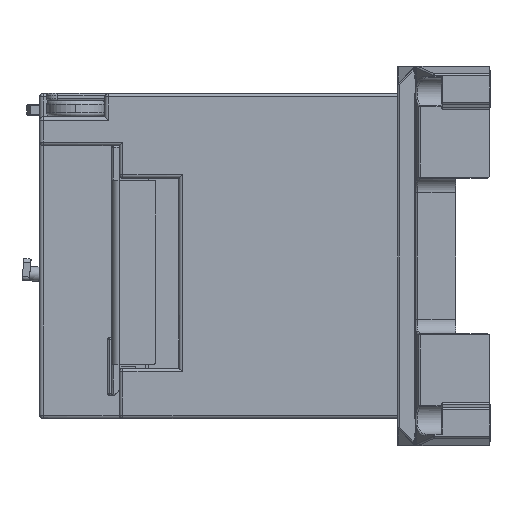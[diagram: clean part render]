
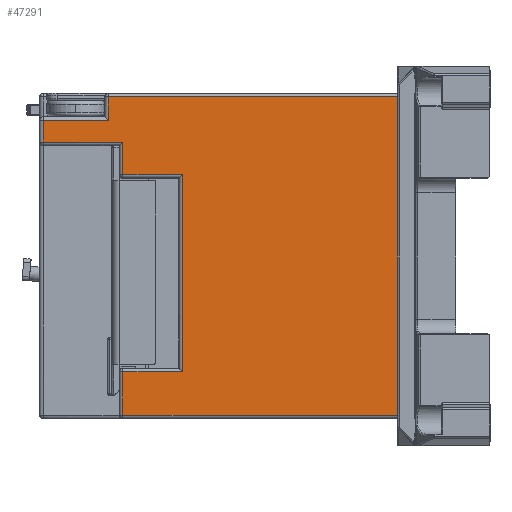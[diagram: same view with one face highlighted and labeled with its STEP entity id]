
A CAD part, left-side view. The second image highlights one B-rep face of the part: STEP entity #47291.
In plain terms, the highlighted planar face has unit normal (-1, 0, 0) as drawn and (1, 0, 0) by its records, which use the part's own axes.
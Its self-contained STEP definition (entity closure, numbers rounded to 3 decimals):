
#357 = DIRECTION ( 'NONE',  ( 0., -1., 0. ) ) ;
#2171 = LINE ( 'NONE', #3861, #11536 ) ;
#2216 = EDGE_CURVE ( 'NONE', #45053, #4192, #16028, .T. ) ;
#2990 = DIRECTION ( 'NONE',  ( 0., 0., 1. ) ) ;
#3195 = VERTEX_POINT ( 'NONE', #27780 ) ;
#3256 = CARTESIAN_POINT ( 'NONE',  ( 43.5, 76., 44. ) ) ;
#3775 = CARTESIAN_POINT ( 'NONE',  ( 43.5, 76., -45. ) ) ;
#3861 = CARTESIAN_POINT ( 'NONE',  ( 43.5, 80., -38.5 ) ) ;
#3981 = CARTESIAN_POINT ( 'NONE',  ( 43.5, 80., -37.5 ) ) ;
#4192 = VERTEX_POINT ( 'NONE', #34594 ) ;
#4487 = EDGE_CURVE ( 'NONE', #13339, #27058, #28177, .T. ) ;
#4983 = EDGE_CURVE ( 'NONE', #50919, #45053, #44220, .T. ) ;
#5740 = CARTESIAN_POINT ( 'NONE',  ( 43.5, 59.5, 32. ) ) ;
#6043 = ORIENTED_EDGE ( 'NONE', *, *, #44804, .T. ) ;
#6538 = DIRECTION ( 'NONE',  ( 0., 0., 1. ) ) ;
#6766 = EDGE_CURVE ( 'NONE', #44911, #13339, #19767, .T. ) ;
#7398 = VECTOR ( 'NONE', #50800, 1000. ) ;
#7497 = DIRECTION ( 'NONE',  ( 0., 0., 1. ) ) ;
#7766 = VECTOR ( 'NONE', #7497, 1000. ) ;
#8300 = VECTOR ( 'NONE', #11695, 1000. ) ;
#8802 = EDGE_CURVE ( 'NONE', #14170, #32220, #37921, .T. ) ;
#9389 = ORIENTED_EDGE ( 'NONE', *, *, #4983, .T. ) ;
#9881 = VECTOR ( 'NONE', #6538, 1000. ) ;
#9907 = CARTESIAN_POINT ( 'NONE',  ( 43.5, 99., -37.5 ) ) ;
#10651 = LINE ( 'NONE', #17223, #32447 ) ;
#11439 = VECTOR ( 'NONE', #46297, 1000. ) ;
#11536 = VECTOR ( 'NONE', #2990, 1000. ) ;
#11695 = DIRECTION ( 'NONE',  ( 0., 1., 0. ) ) ;
#12392 = CARTESIAN_POINT ( 'NONE',  ( 43.5, 99., -22.5 ) ) ;
#13339 = VERTEX_POINT ( 'NONE', #27404 ) ;
#13779 = EDGE_CURVE ( 'NONE', #32220, #30173, #45362, .T. ) ;
#14170 = VERTEX_POINT ( 'NONE', #50083 ) ;
#14267 = ORIENTED_EDGE ( 'NONE', *, *, #46277, .T. ) ;
#14824 = EDGE_LOOP ( 'NONE', ( #33282, #36781, #50952, #9389, #24461, #45645, #40132, #6043, #31909, #15272, #31113, #14267 ) ) ;
#15243 = VECTOR ( 'NONE', #37503, 1000. ) ;
#15272 = ORIENTED_EDGE ( 'NONE', *, *, #4487, .T. ) ;
#15313 = EDGE_CURVE ( 'NONE', #27058, #46231, #10651, .T. ) ;
#15658 = DIRECTION ( 'NONE',  ( 0., -1., 0. ) ) ;
#16028 = LINE ( 'NONE', #44951, #39014 ) ;
#17223 = CARTESIAN_POINT ( 'NONE',  ( 43.5, 99., -31.5 ) ) ;
#17272 = PLANE ( 'NONE',  #36631 ) ;
#17388 = EDGE_CURVE ( 'NONE', #3195, #35253, #26485, .T. ) ;
#18834 = CARTESIAN_POINT ( 'NONE',  ( 43.5, 98., -31.5 ) ) ;
#19767 = LINE ( 'NONE', #9907, #35971 ) ;
#21097 = CARTESIAN_POINT ( 'NONE',  ( 43.5, 80., -44. ) ) ;
#23042 = FACE_OUTER_BOUND ( 'NONE', #14824, .T. ) ;
#24461 = ORIENTED_EDGE ( 'NONE', *, *, #2216, .T. ) ;
#24795 = CARTESIAN_POINT ( 'NONE',  ( 43.5, 76., -45. ) ) ;
#25762 = CARTESIAN_POINT ( 'NONE',  ( 43.5, 98., -30.5 ) ) ;
#25919 = EDGE_CURVE ( 'NONE', #30173, #50919, #40533, .T. ) ;
#26362 = DIRECTION ( 'NONE',  ( -1., 0., 0. ) ) ;
#26485 = LINE ( 'NONE', #43864, #11439 ) ;
#27058 = VERTEX_POINT ( 'NONE', #18834 ) ;
#27196 = VECTOR ( 'NONE', #15658, 1000. ) ;
#27404 = CARTESIAN_POINT ( 'NONE',  ( 43.5, 98., -37.5 ) ) ;
#27780 = CARTESIAN_POINT ( 'NONE',  ( 43.5, 0., -44. ) ) ;
#28177 = LINE ( 'NONE', #25762, #38318 ) ;
#28796 = CARTESIAN_POINT ( 'NONE',  ( 43.5, 76., 32. ) ) ;
#30173 = VERTEX_POINT ( 'NONE', #5740 ) ;
#31113 = ORIENTED_EDGE ( 'NONE', *, *, #15313, .T. ) ;
#31909 = ORIENTED_EDGE ( 'NONE', *, *, #6766, .T. ) ;
#32103 = CARTESIAN_POINT ( 'NONE',  ( 43.5, 59.5, -45. ) ) ;
#32220 = VERTEX_POINT ( 'NONE', #42696 ) ;
#32447 = VECTOR ( 'NONE', #49453, 1000. ) ;
#33114 = CARTESIAN_POINT ( 'NONE',  ( 43.5, 99., 32. ) ) ;
#33282 = ORIENTED_EDGE ( 'NONE', *, *, #8802, .T. ) ;
#34594 = CARTESIAN_POINT ( 'NONE',  ( 43.5, 0., 44. ) ) ;
#35027 = CARTESIAN_POINT ( 'NONE',  ( 43.5, 0., -45. ) ) ;
#35253 = VERTEX_POINT ( 'NONE', #21097 ) ;
#35971 = VECTOR ( 'NONE', #50347, 1000. ) ;
#36631 = AXIS2_PLACEMENT_3D ( 'NONE', #44537, #26362, #37033 ) ;
#36781 = ORIENTED_EDGE ( 'NONE', *, *, #13779, .T. ) ;
#37033 = DIRECTION ( 'NONE',  ( 0., 0., 1. ) ) ;
#37503 = DIRECTION ( 'NONE',  ( 0., 0., -1. ) ) ;
#37887 = EDGE_CURVE ( 'NONE', #4192, #3195, #44189, .T. ) ;
#37921 = LINE ( 'NONE', #12392, #27196 ) ;
#38318 = VECTOR ( 'NONE', #49665, 1000. ) ;
#39014 = VECTOR ( 'NONE', #357, 1000. ) ;
#40132 = ORIENTED_EDGE ( 'NONE', *, *, #17388, .T. ) ;
#40533 = LINE ( 'NONE', #33114, #8300 ) ;
#42696 = CARTESIAN_POINT ( 'NONE',  ( 43.5, 59.5, -22.5 ) ) ;
#43864 = CARTESIAN_POINT ( 'NONE',  ( 43.5, 99., -44. ) ) ;
#44189 = LINE ( 'NONE', #35027, #15243 ) ;
#44220 = LINE ( 'NONE', #3775, #7398 ) ;
#44537 = CARTESIAN_POINT ( 'NONE',  ( 43.5, 99., -45. ) ) ;
#44804 = EDGE_CURVE ( 'NONE', #35253, #44911, #2171, .T. ) ;
#44911 = VERTEX_POINT ( 'NONE', #3981 ) ;
#44951 = CARTESIAN_POINT ( 'NONE',  ( 43.5, 99., 44. ) ) ;
#45053 = VERTEX_POINT ( 'NONE', #3256 ) ;
#45362 = LINE ( 'NONE', #32103, #9881 ) ;
#45645 = ORIENTED_EDGE ( 'NONE', *, *, #37887, .T. ) ;
#46231 = VERTEX_POINT ( 'NONE', #47129 ) ;
#46277 = EDGE_CURVE ( 'NONE', #46231, #14170, #49556, .T. ) ;
#46297 = DIRECTION ( 'NONE',  ( 0., 1., 0. ) ) ;
#47129 = CARTESIAN_POINT ( 'NONE',  ( 43.5, 76., -31.5 ) ) ;
#47291 = ADVANCED_FACE ( 'NONE', ( #23042 ), #17272, .F. ) ;
#49453 = DIRECTION ( 'NONE',  ( 0., -1., 0. ) ) ;
#49556 = LINE ( 'NONE', #24795, #7766 ) ;
#49665 = DIRECTION ( 'NONE',  ( 0., 0., 1. ) ) ;
#50083 = CARTESIAN_POINT ( 'NONE',  ( 43.5, 76., -22.5 ) ) ;
#50347 = DIRECTION ( 'NONE',  ( 0., 1., 0. ) ) ;
#50800 = DIRECTION ( 'NONE',  ( 0., 0., 1. ) ) ;
#50919 = VERTEX_POINT ( 'NONE', #28796 ) ;
#50952 = ORIENTED_EDGE ( 'NONE', *, *, #25919, .T. ) ;
